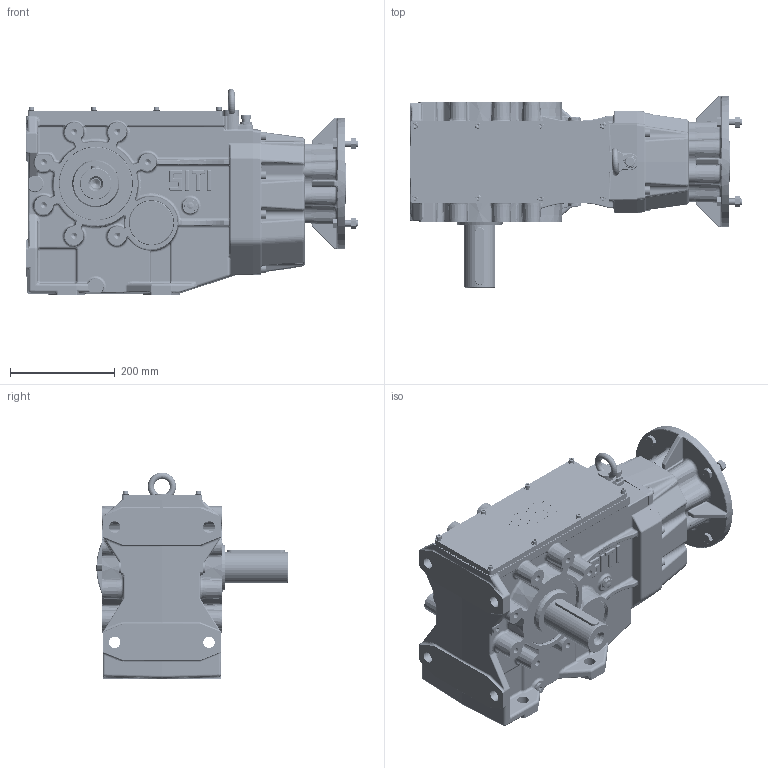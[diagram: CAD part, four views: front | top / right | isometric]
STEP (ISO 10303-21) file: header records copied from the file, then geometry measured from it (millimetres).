
FILE_DESCRIPTION((''),'2;1');
FILE_NAME('O:\Figurini\Figurini BH\3D\125\MBHGC 125 MS-B GR 100-112 B5.stp','2013-05-14T16:03:15',('d.iannaccio'),(''),'Autodesk Inventor 2012','Autodesk Inventor 2012','');
FILE_SCHEMA(('AUTOMOTIVE_DESIGN { 1 0 10303 214 1 1 1 1 }'));
Length unit declared in the file: millimetre
Products named in the file (1): MBHGC_125 MS-B GR 100-112 B5
Bounding box: 634.01 x 365 x 395 mm (x, y, z)
Volume: 10561239.6 mm3; surface area: 1971991.9 mm2
Topology: 68 solids, 74 shells, 4812 faces, 11454 edges, 6668 vertices
Faces by surface type: cylinder 1400, plane 1243, bspline 1065, torus 521, cone 357, sphere 226
Full cylindrical faces by diameter (mm): 4.917 x9, 6 x17, 6.4 x8, 6.647 x8, 7 x8, 8 x8, 8.376 x8, 9 x8, 10 x20, 10.106 x3, 11 x10, 11.835 x14, 12 x24, 12.5 x8, 13 x8, 14 x12, 14.95 x8, 16 x9, 17.835 x2, 18.95 x1, 19 x1, 19.07 x1, 19.5 x1, 20 x1, 21 x2, 22 x8, 25 x1, 30 x2, 37.5 x1, 39.386 x1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
Entity records: 171266 total; most frequent: CARTESIAN_POINT 64674, ORIENTED_EDGE 20776, DIRECTION 20644, EDGE_CURVE 10388, AXIS2_PLACEMENT_3D 8653, VERTEX_POINT 6418, EDGE_LOOP 5627, STYLED_ITEM 4879
